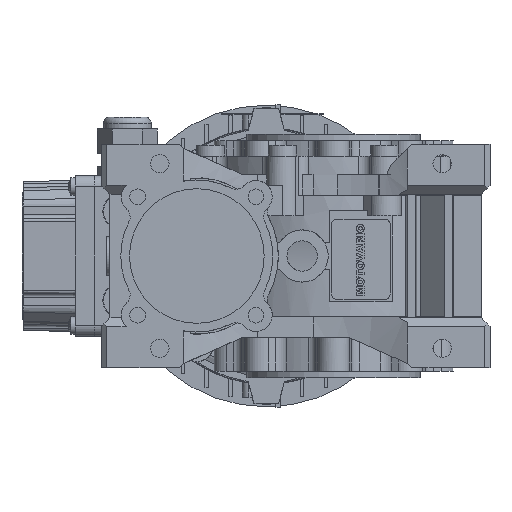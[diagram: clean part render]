
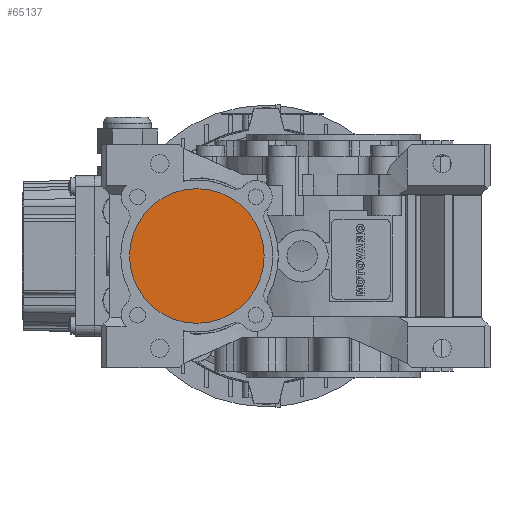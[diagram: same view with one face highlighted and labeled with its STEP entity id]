
A CAD part, left-side view. The second image highlights one B-rep face of the part: STEP entity #65137.
In plain terms, the highlighted planar face has unit normal (-1, 0, 0) as drawn and (0, 0, -1) by its records, which use the part's own axes.
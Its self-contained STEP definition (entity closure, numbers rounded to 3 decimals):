
#3370=CIRCLE('',#85081,31.);
#33299=ORIENTED_EDGE('',*,*,#44508,.F.);
#44508=EDGE_CURVE('',#51382,#51382,#3370,.T.);
#51382=VERTEX_POINT('',#124726);
#55545=EDGE_LOOP('',(#33299));
#59573=FACE_BOUND('',#55545,.T.);
#61883=PLANE('',#85082);
#65137=ADVANCED_FACE('',(#59573),#61883,.T.);
#85081=AXIS2_PLACEMENT_3D('',#124725,#103389,#103390);
#85082=AXIS2_PLACEMENT_3D('',#124727,#103391,#103392);
#103389=DIRECTION('',(0.,0.,1.));
#103390=DIRECTION('',(1.,0.,0.));
#103391=DIRECTION('',(0.,0.,-1.));
#103392=DIRECTION('',(-1.,0.,0.));
#124725=CARTESIAN_POINT('',(0.,63.,-70.5));
#124726=CARTESIAN_POINT('',(31.,63.,-70.5));
#124727=CARTESIAN_POINT('',(31.,63.,-70.5));
